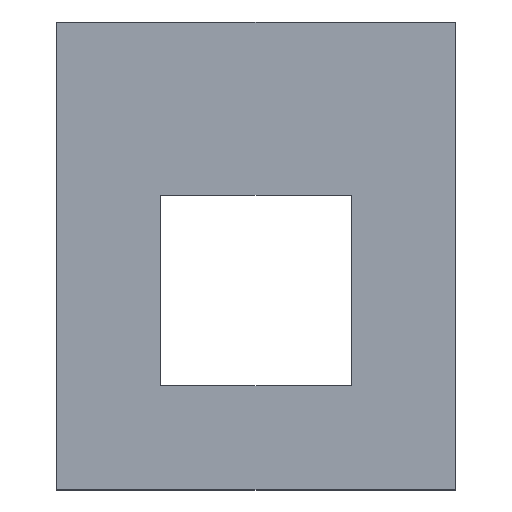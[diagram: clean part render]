
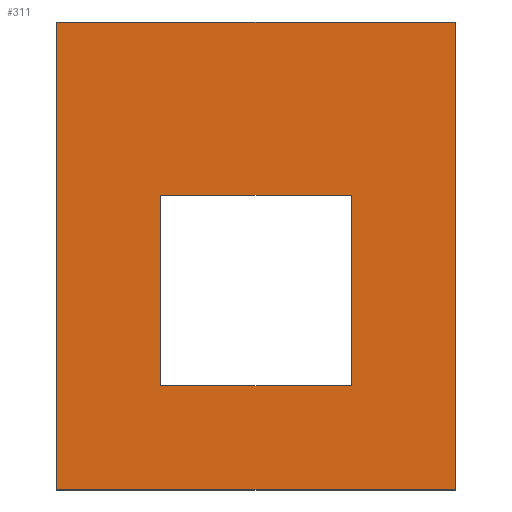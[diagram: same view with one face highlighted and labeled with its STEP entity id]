
A CAD part, top view. The second image highlights one B-rep face of the part: STEP entity #311.
In plain terms, the highlighted planar face has unit normal (0, 0, 1).
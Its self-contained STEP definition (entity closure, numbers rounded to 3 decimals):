
#52 = VERTEX_POINT('',#53);
#53 = CARTESIAN_POINT('',(0.,0.,1.6));
#59 = EDGE_CURVE('',#52,#60,#62,.T.);
#60 = VERTEX_POINT('',#61);
#61 = CARTESIAN_POINT('',(116.84,0.,1.6));
#62 = LINE('',#63,#64);
#63 = CARTESIAN_POINT('',(0.,0.,1.6));
#64 = VECTOR('',#65,1.);
#65 = DIRECTION('',(1.,0.,0.));
#90 = EDGE_CURVE('',#60,#91,#93,.T.);
#91 = VERTEX_POINT('',#92);
#92 = CARTESIAN_POINT('',(116.84,137.16,1.6));
#93 = LINE('',#94,#95);
#94 = CARTESIAN_POINT('',(116.84,0.,1.6));
#95 = VECTOR('',#96,1.);
#96 = DIRECTION('',(0.,1.,0.));
#121 = EDGE_CURVE('',#91,#122,#124,.T.);
#122 = VERTEX_POINT('',#123);
#123 = CARTESIAN_POINT('',(0.,137.16,1.6));
#124 = LINE('',#125,#126);
#125 = CARTESIAN_POINT('',(116.84,137.16,1.6));
#126 = VECTOR('',#127,1.);
#127 = DIRECTION('',(-1.,0.,0.));
#152 = EDGE_CURVE('',#122,#52,#153,.T.);
#153 = LINE('',#154,#155);
#154 = CARTESIAN_POINT('',(0.,137.16,1.6));
#155 = VECTOR('',#156,1.);
#156 = DIRECTION('',(0.,-1.,0.));
#176 = VERTEX_POINT('',#177);
#177 = CARTESIAN_POINT('',(86.36,30.48,1.6));
#183 = EDGE_CURVE('',#176,#184,#186,.T.);
#184 = VERTEX_POINT('',#185);
#185 = CARTESIAN_POINT('',(86.36,86.36,1.6));
#186 = LINE('',#187,#188);
#187 = CARTESIAN_POINT('',(86.36,30.48,1.6));
#188 = VECTOR('',#189,1.);
#189 = DIRECTION('',(0.,1.,0.));
#216 = VERTEX_POINT('',#217);
#217 = CARTESIAN_POINT('',(30.48,30.48,1.6));
#223 = EDGE_CURVE('',#216,#176,#224,.T.);
#224 = LINE('',#225,#226);
#225 = CARTESIAN_POINT('',(30.48,30.48,1.6));
#226 = VECTOR('',#227,1.);
#227 = DIRECTION('',(1.,0.,0.));
#247 = VERTEX_POINT('',#248);
#248 = CARTESIAN_POINT('',(30.48,86.36,1.6));
#254 = EDGE_CURVE('',#247,#216,#255,.T.);
#255 = LINE('',#256,#257);
#256 = CARTESIAN_POINT('',(30.48,86.36,1.6));
#257 = VECTOR('',#258,1.);
#258 = DIRECTION('',(0.,-1.,0.));
#276 = EDGE_CURVE('',#184,#247,#277,.T.);
#277 = LINE('',#278,#279);
#278 = CARTESIAN_POINT('',(86.36,86.36,1.6));
#279 = VECTOR('',#280,1.);
#280 = DIRECTION('',(-1.,0.,0.));
#311 = ADVANCED_FACE('',(#312,#318),#324,.T.);
#312 = FACE_BOUND('',#313,.T.);
#313 = EDGE_LOOP('',(#314,#315,#316,#317));
#314 = ORIENTED_EDGE('',*,*,#59,.T.);
#315 = ORIENTED_EDGE('',*,*,#90,.T.);
#316 = ORIENTED_EDGE('',*,*,#121,.T.);
#317 = ORIENTED_EDGE('',*,*,#152,.T.);
#318 = FACE_BOUND('',#319,.T.);
#319 = EDGE_LOOP('',(#320,#321,#322,#323));
#320 = ORIENTED_EDGE('',*,*,#183,.F.);
#321 = ORIENTED_EDGE('',*,*,#223,.F.);
#322 = ORIENTED_EDGE('',*,*,#254,.F.);
#323 = ORIENTED_EDGE('',*,*,#276,.F.);
#324 = PLANE('',#325);
#325 = AXIS2_PLACEMENT_3D('',#326,#327,#328);
#326 = CARTESIAN_POINT('',(58.42,68.58,1.6));
#327 = DIRECTION('',(0.,0.,1.));
#328 = DIRECTION('',(1.,0.,-0.));
